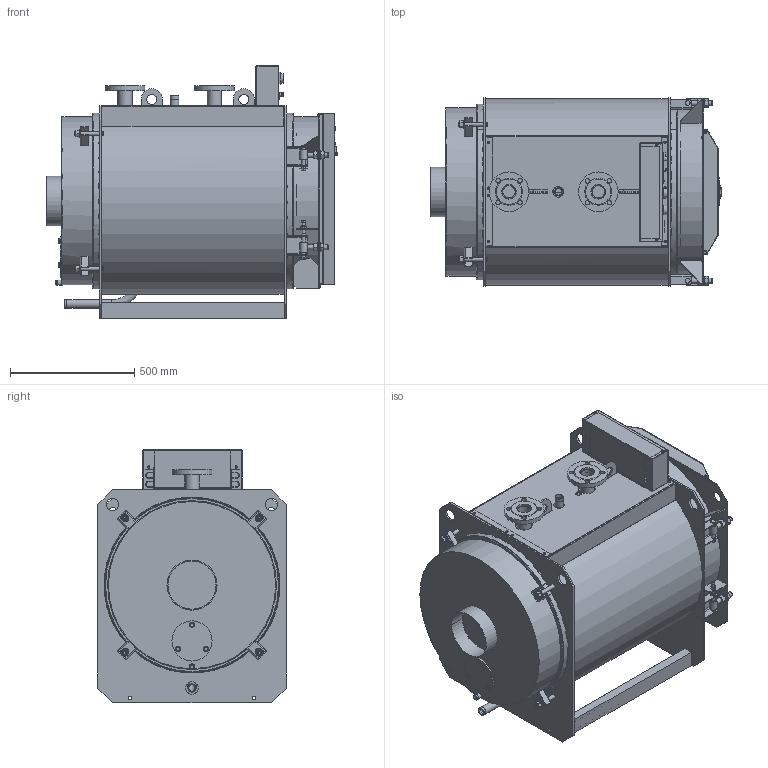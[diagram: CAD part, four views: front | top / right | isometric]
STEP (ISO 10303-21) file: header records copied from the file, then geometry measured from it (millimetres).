
FILE_DESCRIPTION(('STEP AP242'), '1');
FILE_NAME('Òèòàí Ïðîì 100 êÂò', '2026-01-12T08:27:33', (''), (''), 'ASCON STEP Converter 1.6', 'ASCON Math Kernel', '');
FILE_SCHEMA(('AP242_MANAGED_MODEL_BASED_3D_ENGINEERING_MIM_LF { 1 0 10303 442 1 1 4 }'));
Length unit declared in the file: millimetre
Products named in the file (1): КЕВМ.3136.00.00.000-01 (100)
Bounding box: 1172.26 x 760 x 1023.16 mm (x, y, z)
Volume: 20180908.5 mm3; surface area: 11244929.4 mm2
Topology: 54 solids, 56 shells, 4242 faces, 10739 edges, 6883 vertices
Faces by surface type: plane 2613, cylinder 1273, cone 161, bspline 148, torus 21, sphere 18, extrusion 8
Full cylindrical faces by diameter (mm): 1.9 x1, 2 x18, 2.5 x1, 3 x10, 3.5 x5, 3.6 x4, 4 x8, 4.1 x10, 4.2 x4, 4.5 x8, 4.8 x1, 5 x14, 6 x5, 7 x2, 7.6 x1, 8 x6, 8.5 x2, 9 x2, 9.25 x12, 9.728 x1, 10 x5, 10.5 x1, 11 x1, 12 x11, 13 x8, 13.835 x1, 14 x4, 14.5 x1, 15 x2, 15.7 x1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
Entity records: 204559 total; most frequent: CARTESIAN_POINT 69340, ORIENTED_EDGE 20490, DIRECTION 20409, EDGE_CURVE 10245, AXIS2_PLACEMENT_3D 7034, VERTEX_POINT 6861, VECTOR 6341, LINE 6333
